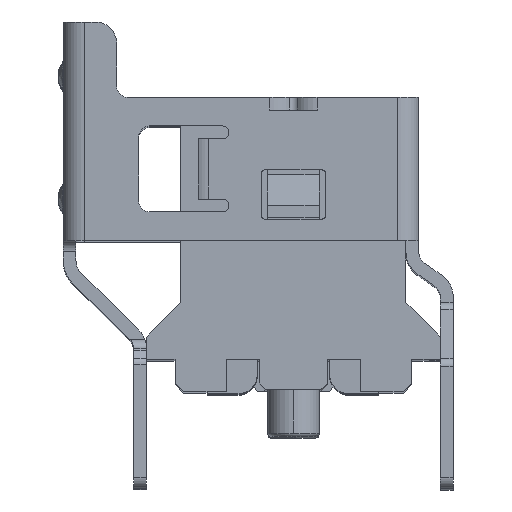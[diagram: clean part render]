
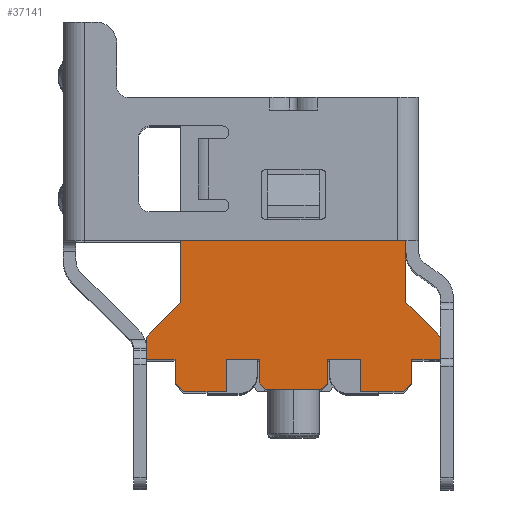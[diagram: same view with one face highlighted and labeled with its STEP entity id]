
A CAD part, top view. The second image highlights one B-rep face of the part: STEP entity #37141.
In plain terms, the highlighted planar face has unit normal (0, 0, 1).
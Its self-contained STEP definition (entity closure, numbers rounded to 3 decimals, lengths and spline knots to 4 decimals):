
#421=DIRECTION('',(1.,0.,0.));
#422=VECTOR('',#421,0.665);
#423=CARTESIAN_POINT('',(4.745,1.8,0.));
#424=LINE('',#423,#422);
#425=DIRECTION('',(0.707,0.707,0.));
#426=VECTOR('',#425,0.2828);
#427=CARTESIAN_POINT('',(4.545,1.05,0.));
#428=LINE('',#427,#426);
#429=DIRECTION('',(1.,0.,0.));
#430=VECTOR('',#429,0.77);
#431=CARTESIAN_POINT('',(2.78,1.8,0.));
#432=LINE('',#431,#430);
#433=DIRECTION('',(0.707,0.707,0.));
#434=VECTOR('',#433,0.2121);
#435=CARTESIAN_POINT('',(2.63,1.1,0.));
#436=LINE('',#435,#434);
#437=DIRECTION('',(0.707,-0.707,0.));
#438=VECTOR('',#437,0.2121);
#439=CARTESIAN_POINT('',(1.2,1.25,0.));
#440=LINE('',#439,#438);
#441=DIRECTION('',(1.,0.,0.));
#442=VECTOR('',#441,0.77);
#443=CARTESIAN_POINT('',(0.43,1.8,0.));
#444=LINE('',#443,#442);
#445=DIRECTION('',(0.707,-0.707,0.));
#446=VECTOR('',#445,0.2828);
#447=CARTESIAN_POINT('',(-0.765,1.25,0.));
#448=LINE('',#447,#446);
#449=DIRECTION('',(1.,0.,0.));
#450=VECTOR('',#449,0.665);
#451=CARTESIAN_POINT('',(-1.43,1.8,0.));
#452=LINE('',#451,#450);
#453=DIRECTION('',(-0.707,-0.707,0.));
#454=VECTOR('',#453,1.1314);
#455=CARTESIAN_POINT('',(-0.63,3.1186,0.));
#456=LINE('',#455,#454);
#457=DIRECTION('',(-1.,0.,0.));
#458=VECTOR('',#457,5.24);
#459=CARTESIAN_POINT('',(4.61,4.56,0.));
#460=LINE('',#459,#458);
#461=DIRECTION('',(0.,1.,0.));
#462=VECTOR('',#461,1.4414);
#463=CARTESIAN_POINT('',(4.61,3.1186,0.));
#464=LINE('',#463,#462);
#465=DIRECTION('',(-0.707,0.707,0.));
#466=VECTOR('',#465,1.1314);
#467=CARTESIAN_POINT('',(5.41,2.3186,0.));
#468=LINE('',#467,#466);
#513=DIRECTION('',(0.,1.,0.));
#514=VECTOR('',#513,0.222);
#515=CARTESIAN_POINT('',(5.41,1.8,0.));
#516=LINE('',#515,#514);
#717=DIRECTION('',(0.,1.,0.));
#718=VECTOR('',#717,0.2967);
#719=CARTESIAN_POINT('',(5.41,2.022,0.));
#720=LINE('',#719,#718);
#1884=DIRECTION('',(0.,-1.,0.));
#1885=VECTOR('',#1884,1.4414);
#1886=CARTESIAN_POINT('',(-0.63,4.56,0.));
#1887=LINE('',#1886,#1885);
#6379=DIRECTION('',(0.,-1.,0.));
#6380=VECTOR('',#6379,0.5186);
#6381=CARTESIAN_POINT('',(-1.43,2.3186,0.));
#6382=LINE('',#6381,#6380);
#21237=DIRECTION('',(0.,1.,0.));
#21238=VECTOR('',#21237,0.55);
#21239=CARTESIAN_POINT('',(4.745,1.25,0.));
#21240=LINE('',#21239,#21238);
#21265=DIRECTION('',(0.,-1.,0.));
#21266=VECTOR('',#21265,0.75);
#21267=CARTESIAN_POINT('',(3.55,1.8,0.));
#21268=LINE('',#21267,#21266);
#21269=DIRECTION('',(-1.,0.,0.));
#21270=VECTOR('',#21269,0.995);
#21271=CARTESIAN_POINT('',(4.545,1.05,0.));
#21272=LINE('',#21271,#21270);
#21285=DIRECTION('',(0.,-1.,0.));
#21286=VECTOR('',#21285,0.55);
#21287=CARTESIAN_POINT('',(2.78,1.8,0.));
#21288=LINE('',#21287,#21286);
#21397=DIRECTION('',(1.,0.,0.));
#21398=VECTOR('',#21397,1.28);
#21399=CARTESIAN_POINT('',(1.35,1.1,0.));
#21400=LINE('',#21399,#21398);
#21477=DIRECTION('',(0.,-1.,0.));
#21478=VECTOR('',#21477,0.55);
#21479=CARTESIAN_POINT('',(1.2,1.8,0.));
#21480=LINE('',#21479,#21478);
#22997=DIRECTION('',(0.,1.,0.));
#22998=VECTOR('',#22997,0.75);
#22999=CARTESIAN_POINT('',(0.43,1.05,0.));
#23000=LINE('',#22999,#22998);
#23021=DIRECTION('',(0.,-1.,0.));
#23022=VECTOR('',#23021,0.55);
#23023=CARTESIAN_POINT('',(-0.765,1.8,0.));
#23024=LINE('',#23023,#23022);
#23029=DIRECTION('',(-1.,0.,0.));
#23030=VECTOR('',#23029,0.995);
#23031=CARTESIAN_POINT('',(0.43,1.05,0.));
#23032=LINE('',#23031,#23030);
#27874=CARTESIAN_POINT('',(2.78,1.8,0.));
#27875=CARTESIAN_POINT('',(2.78,1.25,0.));
#27876=VERTEX_POINT('',#27874);
#27877=VERTEX_POINT('',#27875);
#27878=CARTESIAN_POINT('',(2.63,1.1,0.));
#27879=VERTEX_POINT('',#27878);
#27880=CARTESIAN_POINT('',(1.35,1.1,0.));
#27881=VERTEX_POINT('',#27880);
#27882=CARTESIAN_POINT('',(1.2,1.25,0.));
#27883=VERTEX_POINT('',#27882);
#27884=CARTESIAN_POINT('',(1.2,1.8,0.));
#27885=VERTEX_POINT('',#27884);
#28763=CARTESIAN_POINT('',(5.41,2.022,0.));
#28764=VERTEX_POINT('',#28763);
#31289=CARTESIAN_POINT('',(-1.43,1.8,0.));
#31290=VERTEX_POINT('',#31289);
#31291=CARTESIAN_POINT('',(-0.765,1.8,0.));
#31292=VERTEX_POINT('',#31291);
#31297=CARTESIAN_POINT('',(0.43,1.8,0.));
#31298=VERTEX_POINT('',#31297);
#31307=CARTESIAN_POINT('',(3.55,1.8,0.));
#31308=VERTEX_POINT('',#31307);
#31313=CARTESIAN_POINT('',(4.745,1.8,0.));
#31314=VERTEX_POINT('',#31313);
#31315=CARTESIAN_POINT('',(5.41,1.8,0.));
#31316=VERTEX_POINT('',#31315);
#31853=CARTESIAN_POINT('',(4.61,3.1186,0.));
#31854=VERTEX_POINT('',#31853);
#31855=CARTESIAN_POINT('',(4.61,4.56,0.));
#31856=VERTEX_POINT('',#31855);
#31857=CARTESIAN_POINT('',(-0.63,4.56,0.));
#31858=VERTEX_POINT('',#31857);
#31859=CARTESIAN_POINT('',(4.745,1.25,0.));
#31860=VERTEX_POINT('',#31859);
#31861=CARTESIAN_POINT('',(4.545,1.05,0.));
#31862=VERTEX_POINT('',#31861);
#31863=CARTESIAN_POINT('',(3.55,1.05,0.));
#31864=VERTEX_POINT('',#31863);
#31865=CARTESIAN_POINT('',(0.43,1.05,0.));
#31866=VERTEX_POINT('',#31865);
#31867=CARTESIAN_POINT('',(-0.565,1.05,0.));
#31868=VERTEX_POINT('',#31867);
#31869=CARTESIAN_POINT('',(-0.765,1.25,0.));
#31870=VERTEX_POINT('',#31869);
#31871=CARTESIAN_POINT('',(-1.43,2.3186,0.));
#31872=VERTEX_POINT('',#31871);
#31873=CARTESIAN_POINT('',(-0.63,3.1186,0.));
#31874=VERTEX_POINT('',#31873);
#31875=CARTESIAN_POINT('',(5.41,2.3186,0.));
#31876=VERTEX_POINT('',#31875);
#37090=CARTESIAN_POINT('',(1.99,2.805,0.));
#37091=DIRECTION('',(0.,0.,1.));
#37092=DIRECTION('',(1.,0.,0.));
#37093=AXIS2_PLACEMENT_3D('',#37090,#37091,#37092);
#37094=PLANE('',#37093);
#37096=ORIENTED_EDGE('',*,*,#37095,.F.);
#37097=ORIENTED_EDGE('',*,*,#35656,.F.);
#37099=ORIENTED_EDGE('',*,*,#37098,.F.);
#37101=ORIENTED_EDGE('',*,*,#37100,.F.);
#37103=ORIENTED_EDGE('',*,*,#37102,.T.);
#37105=ORIENTED_EDGE('',*,*,#37104,.F.);
#37106=ORIENTED_EDGE('',*,*,#35648,.F.);
#37108=ORIENTED_EDGE('',*,*,#37107,.T.);
#37110=ORIENTED_EDGE('',*,*,#37109,.F.);
#37112=ORIENTED_EDGE('',*,*,#37111,.F.);
#37114=ORIENTED_EDGE('',*,*,#37113,.F.);
#37116=ORIENTED_EDGE('',*,*,#37115,.F.);
#37117=ORIENTED_EDGE('',*,*,#35616,.F.);
#37119=ORIENTED_EDGE('',*,*,#37118,.F.);
#37121=ORIENTED_EDGE('',*,*,#37120,.T.);
#37123=ORIENTED_EDGE('',*,*,#37122,.F.);
#37125=ORIENTED_EDGE('',*,*,#37124,.F.);
#37126=ORIENTED_EDGE('',*,*,#35608,.F.);
#37128=ORIENTED_EDGE('',*,*,#37127,.F.);
#37130=ORIENTED_EDGE('',*,*,#37129,.F.);
#37132=ORIENTED_EDGE('',*,*,#37131,.F.);
#37133=ORIENTED_EDGE('',*,*,#37064,.F.);
#37134=ORIENTED_EDGE('',*,*,#36972,.F.);
#37136=ORIENTED_EDGE('',*,*,#37135,.F.);
#37138=ORIENTED_EDGE('',*,*,#37137,.F.);
#37139=EDGE_LOOP('',(#37096,#37097,#37099,#37101,#37103,#37105,#37106,#37108,
#37110,#37112,#37114,#37116,#37117,#37119,#37121,#37123,#37125,#37126,#37128,
#37130,#37132,#37133,#37134,#37136,#37138));
#37140=FACE_OUTER_BOUND('',#37139,.F.);
#37141=ADVANCED_FACE('',(#37140),#37094,.T.);
#35608=EDGE_CURVE('',#31290,#31292,#452,.T.);
#35616=EDGE_CURVE('',#31298,#27885,#444,.T.);
#35648=EDGE_CURVE('',#27876,#31308,#432,.T.);
#35656=EDGE_CURVE('',#31314,#31316,#424,.T.);
#36972=EDGE_CURVE('',#31854,#31856,#464,.T.);
#37064=EDGE_CURVE('',#31856,#31858,#460,.T.);
#37095=EDGE_CURVE('',#31316,#28764,#516,.T.);
#37098=EDGE_CURVE('',#31860,#31314,#21240,.T.);
#37100=EDGE_CURVE('',#31862,#31860,#428,.T.);
#37102=EDGE_CURVE('',#31862,#31864,#21272,.T.);
#37104=EDGE_CURVE('',#31308,#31864,#21268,.T.);
#37107=EDGE_CURVE('',#27876,#27877,#21288,.T.);
#37109=EDGE_CURVE('',#27879,#27877,#436,.T.);
#37111=EDGE_CURVE('',#27881,#27879,#21400,.T.);
#37113=EDGE_CURVE('',#27883,#27881,#440,.T.);
#37115=EDGE_CURVE('',#27885,#27883,#21480,.T.);
#37118=EDGE_CURVE('',#31866,#31298,#23000,.T.);
#37120=EDGE_CURVE('',#31866,#31868,#23032,.T.);
#37122=EDGE_CURVE('',#31870,#31868,#448,.T.);
#37124=EDGE_CURVE('',#31292,#31870,#23024,.T.);
#37127=EDGE_CURVE('',#31872,#31290,#6382,.T.);
#37129=EDGE_CURVE('',#31874,#31872,#456,.T.);
#37131=EDGE_CURVE('',#31858,#31874,#1887,.T.);
#37135=EDGE_CURVE('',#31876,#31854,#468,.T.);
#37137=EDGE_CURVE('',#28764,#31876,#720,.T.);
